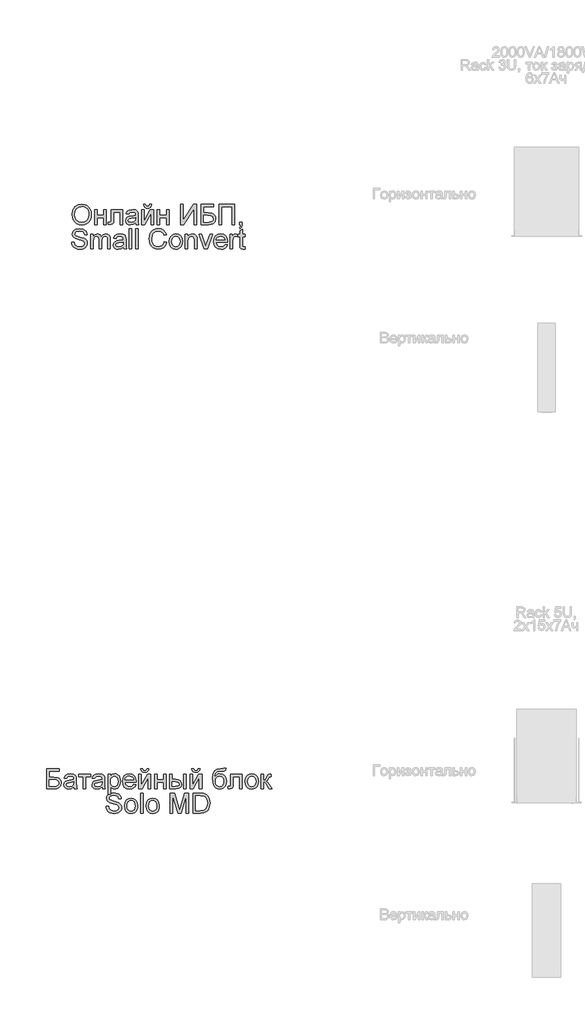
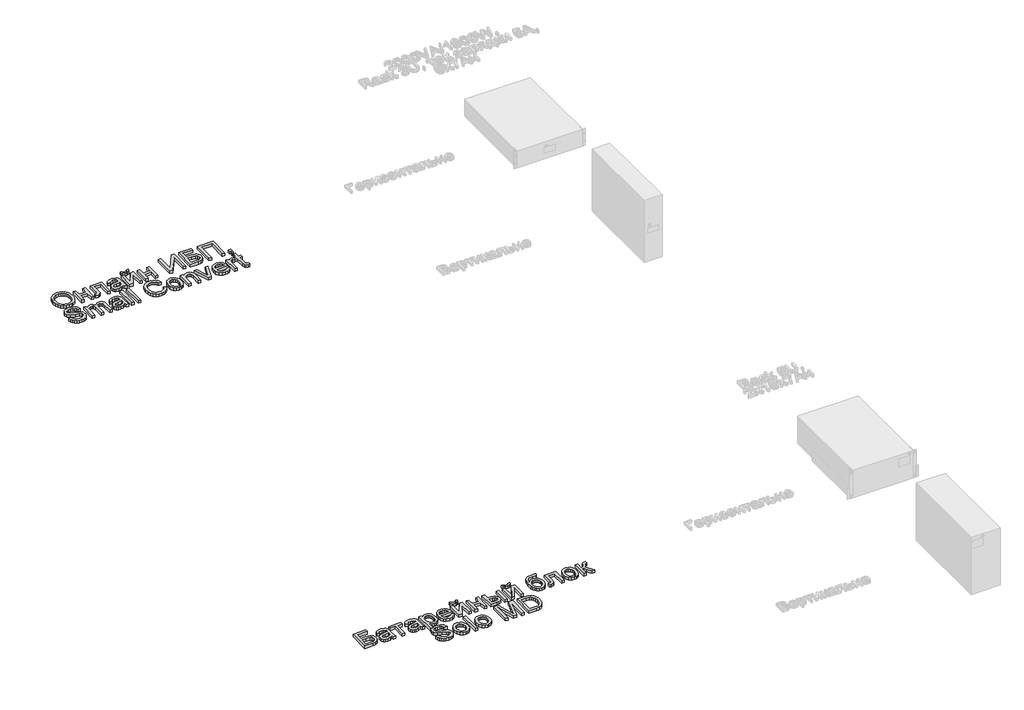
# One storey, part 5 of 74: 2 proxies.
"""IFC4 building model written with IfcOpenShell, lengths in millimetres."""

from ifc_helpers import new_model, si_unit, origin, origin_with_axes, place, context, project, spatial, polyline, outline, extrude, element, save

model = new_model("IFC4")

# Units and contexts
model_context = context("Model", 3, world=origin())
ifc_project = project(units=[si_unit("LENGTHUNIT", "METRE", prefix="MILLI")], contexts=[model_context])

# Site, building, storey
site = spatial("IfcSite", under=ifc_project)
building = spatial("IfcBuilding", under=site)
storey = spatial("IfcBuildingStorey", under=building, Name="Этаж 01", Elevation=0.0)

# Proxies
placement = place(None, origin())
element("IfcBuildingElementProxy", 1, Name="150 мм Arial", ObjectType="150 мм Arial", at=placement, inside=storey, context=model_context, shape_type="SweptSolid", body=[
    extrude(outline(polyline([(-2206.3315833, -35549.2350136), (-2201.3099941, -35515.9141019), (-2195.0330076, -35502.2955703), (-2186.2452264, -35490.7049882), (-2163.2434047, -35474.8400771), (-2134.4106533, -35469.5517734), (-2114.6461931, -35472.0349769), (-2096.923478, -35479.4845873), (-2082.2081982, -35491.3763728), (-2071.4660439, -35507.1861015), (-2064.8993503, -35526.1504184), (-2062.7104524, -35547.5059682), (-2065.0143134, -35569.1466266), (-2071.9258964, -35588.3776579), (-2083.0635238, -35604.2149778), (-2098.0455181, -35615.6745019), (-2115.6164819, -35622.6274716), (-2134.5210179, -35624.9451282), (-2154.5889807, -35622.3837498), (-2172.4128634, -35614.6996146), (-2187.091355, -35602.5870999), (-2197.7231447, -35586.740583), (-2204.1794737, -35568.5074316), (-2206.3315833, -35549.2350136)]), holes=[polyline([(-2187.4960252, -35549.4189546), (-2183.7298333, -35572.9909934), (-2172.4312575, -35590.9528318), (-2155.4489049, -35602.3203855), (-2134.6313825, -35606.10957), (-2113.5103574, -35602.2835973), (-2096.5004137, -35590.805679), (-2085.2846114, -35572.2920176), (-2081.5460106, -35547.3588154), (-2083.1462973, -35530.684564), (-2087.9471573, -35516.2727868), (-2095.8244305, -35504.4867674), (-2106.6539567, -35495.6897892), (-2119.7183661, -35490.212946), (-2134.3002887, -35488.3873316), (-2154.5613896, -35491.9052032), (-2171.787464, -35502.4588179), (-2183.5688849, -35521.2345952), (-2187.4960252, -35549.4189546)])]), origin_with_axes(), (0.0, 0.0, 1.0), 20.0),
    extrude(outline(polyline([(-2039.1660047, -35511.9317793), (-2020.3304466, -35511.9317793), (-2020.3304466, -35554.3117851), (-1970.8871064, -35554.3117851), (-1970.8871064, -35511.9317793), (-1952.0515483, -35511.9317793), (-1952.0515483, -35622.5906834), (-1970.8871064, -35622.5906834), (-1970.8871064, -35573.1473433), (-2020.3304466, -35573.1473433), (-2020.3304466, -35622.5906834), (-2039.1660047, -35622.5906834), (-2039.1660047, -35511.9317793)])), origin_with_axes(), (0.0, 0.0, 1.0), 20.0),
    extrude(outline(polyline([(-1914.380432, -35511.9317793), (-1829.6204203, -35511.9317793), (-1829.6204203, -35622.4803188), (-1848.4559784, -35622.4803188), (-1848.4559784, -35530.7673374), (-1895.5448738, -35530.7673374), (-1895.5448738, -35583.5584037), (-1896.8140667, -35607.9121918), (-1903.7854305, -35618.1944936), (-1920.2665439, -35622.5906834), (-1935.5704349, -35621.6341902), (-1935.5704349, -35603.7551253), (-1927.1459372, -35603.7551253), (-1918.629469, -35602.596297), (-1915.2265606, -35598.917477), (-1914.380432, -35582.491546), (-1914.380432, -35511.9317793)])), origin_with_axes(), (0.0, 0.0, 1.0), 20.0),
    extrude(outline(polyline([(-1730.73374, -35608.4640148), (-1748.999081, -35621.22952), (-1769.1774085, -35624.9451282), (-1784.9181593, -35622.7102451), (-1796.5294348, -35616.0055957), (-1803.6893381, -35605.8244615), (-1806.0759726, -35593.1601238), (-1802.470729, -35578.260903), (-1792.9977677, -35567.4451724), (-1779.8091981, -35561.2647548), (-1763.5120257, -35558.4320635), (-1730.8441046, -35551.9573404), (-1730.73374, -35547.7634856), (-1732.030524, -35539.357382), (-1735.9208761, -35533.8575462), (-1744.6212853, -35529.774056), (-1756.742997, -35528.4128927), (-1775.7992844, -35532.0365303), (-1784.8859697, -35544.894006), (-1803.7215278, -35542.5395613), (-1795.5729416, -35524.1454615), (-1779.1654046, -35513.3665191), (-1754.3149759, -35509.5773345), (-1731.4878981, -35512.9250607), (-1718.5936341, -35521.3311643), (-1712.8178868, -35534.1150636), (-1711.8981818, -35550.596177), (-1711.8981818, -35574.0302601), (-1710.9416886, -35606.7533635), (-1707.1892923, -35622.5906834), (-1726.0248504, -35622.5906834), (-1730.73374, -35608.4640148)]), holes=[polyline([(-1730.73374, -35570.7928985), (-1761.1207928, -35576.5686458), (-1777.3259947, -35579.6220664), (-1784.6652405, -35584.5884733), (-1787.2404144, -35591.8357486), (-1781.630214, -35602.0260799), (-1765.1674947, -35606.10957), (-1746.1112074, -35601.6030156), (-1733.8239487, -35590.6953144), (-1730.8441046, -35576.1271874), (-1730.73374, -35570.7928985)])]), origin_with_axes(), (0.0, 0.0, 1.0), 20.0),
    extrude(outline(polyline([(-1685.9992894, -35511.9317793), (-1667.1637312, -35511.9317793), (-1667.1637312, -35596.323909), (-1620.8841762, -35511.9317793), (-1596.5303881, -35511.9317793), (-1596.5303881, -35622.5906834), (-1615.3659463, -35622.5906834), (-1615.3659463, -35538.7135885), (-1661.3511957, -35622.5906834), (-1685.9992894, -35622.5906834), (-1685.9992894, -35511.9317793)])), origin_with_axes(), (0.0, 0.0, 1.0), 20.0),
    extrude(outline(polyline([(-1624.7837254, -35471.9062182), (-1610.6570567, -35471.9062182), (-1613.6966817, -35483.9681491), (-1619.7989243, -35492.8570978), (-1628.687873, -35498.333941), (-1640.0876164, -35500.1595554), (-1652.4576485, -35498.3477366), (-1662.0501715, -35492.9122801), (-1668.607668, -35484.037127), (-1671.8726207, -35471.9062182), (-1657.7459521, -35471.9062182), (-1652.4484514, -35482.5196138), (-1641.7798735, -35486.0328868), (-1630.0812261, -35482.6299784), (-1624.7837254, -35471.9062182)])), origin_with_axes(), (0.0, 0.0, 1.0), 20.0),
    extrude(outline(polyline([(-1568.2770509, -35511.9317793), (-1549.4414928, -35511.9317793), (-1549.4414928, -35554.3117851), (-1499.9981526, -35554.3117851), (-1499.9981526, -35511.9317793), (-1481.1625944, -35511.9317793), (-1481.1625944, -35622.5906834), (-1499.9981526, -35622.5906834), (-1499.9981526, -35573.1473433), (-1549.4414928, -35573.1473433), (-1549.4414928, -35622.5906834), (-1568.2770509, -35622.5906834), (-1568.2770509, -35511.9317793)])), origin_with_axes(), (0.0, 0.0, 1.0), 20.0),
    extrude(outline(polyline([(-1391.6936932, -35471.9062182), (-1372.8581351, -35471.9062182), (-1372.8581351, -35591.2471374), (-1293.9842353, -35471.9062182), (-1273.9714548, -35471.9062182), (-1273.9714548, -35622.5906834), (-1292.8070129, -35622.5906834), (-1292.8070129, -35503.580858), (-1371.4969717, -35622.5906834), (-1391.6936932, -35622.5906834), (-1391.6936932, -35471.9062182)])), origin_with_axes(), (0.0, 0.0, 1.0), 20.0),
    extrude(outline(polyline([(-1241.009228, -35471.9062182), (-1146.8314372, -35471.9062182), (-1146.8314372, -35490.7417764), (-1222.1736698, -35490.7417764), (-1222.1736698, -35535.476227), (-1186.8937865, -35535.476227), (-1155.8077579, -35539.3021997), (-1145.4058945, -35544.8296267), (-1137.3032936, -35553.7599621), (-1132.0885663, -35565.2562745), (-1130.3503238, -35578.4816322), (-1135.2983367, -35599.9475466), (-1150.0687988, -35616.2631131), (-1163.3401418, -35621.0087908), (-1183.5092721, -35622.5906834), (-1241.009228, -35622.5906834), (-1241.009228, -35471.9062182)]), holes=[polyline([(-1222.1736698, -35603.7551253), (-1181.817015, -35603.7551253), (-1167.5523906, -35602.2008238), (-1157.3528623, -35597.5379196), (-1151.2276271, -35589.7664124), (-1149.185882, -35578.8863024), (-1153.8579833, -35564.1342344), (-1166.8626119, -35556.2615597), (-1195.2447078, -35554.3117851), (-1222.1736698, -35554.3117851), (-1222.1736698, -35603.7551253)])]), origin_with_axes(), (0.0, 0.0, 1.0), 20.0),
    extrude(outline(polyline([(-1104.4514314, -35471.9062182), (-986.7291929, -35471.9062182), (-986.7291929, -35622.5906834), (-1005.5647511, -35622.5906834), (-1005.5647511, -35490.7417764), (-1085.6158732, -35490.7417764), (-1085.6158732, -35622.5906834), (-1104.4514314, -35622.5906834), (-1104.4514314, -35471.9062182)])), origin_with_axes(), (0.0, 0.0, 1.0), 20.0),
    extrude(outline(polyline([(-951.4125214, -35622.5906834), (-951.4125214, -35603.7551253), (-932.5769632, -35603.7551253), (-932.5769632, -35622.5906834), (-935.9614776, -35641.8493059), (-946.7036319, -35653.1984654), (-951.4125214, -35646.1351311), (-944.4963399, -35638.004939), (-942.0315305, -35622.5906834), (-951.4125214, -35622.5906834)])), origin_with_axes(), (0.0, 0.0, 1.0), 20.0),
    extrude(outline(polyline([(-2211.0404729, -35753.7551253), (-2192.2049147, -35753.7551253), (-2186.1348618, -35772.6090775), (-2171.3092174, -35784.5284542), (-2148.7212629, -35789.0717968), (-2129.0395762, -35785.6321002), (-2116.3292532, -35776.1775329), (-2112.1537926, -35763.5407863), (-2115.2807895, -35751.7869566), (-2128.083083, -35743.2337002), (-2155.5086857, -35736.0416072), (-2185.0312158, -35726.7525868), (-2201.0524767, -35712.7362828), (-2206.3315833, -35694.0110893), (-2204.699107, -35682.9792279), (-2199.8016779, -35672.6923276), (-2191.7680549, -35663.9735244), (-2180.7269965, -35657.645954), (-2152.804753, -35652.5140002), (-2123.0063114, -35657.8850773), (-2111.5835755, -35664.5161503), (-2103.1406837, -35673.6672149), (-2097.7971977, -35684.7680541), (-2095.6726792, -35697.2484508), (-2114.5082373, -35697.2484508), (-2117.9663281, -35686.0096559), (-2125.1768152, -35677.8978579), (-2136.4432013, -35672.9866332), (-2152.0689891, -35671.3495584), (-2168.0626588, -35672.9682391), (-2179.0347393, -35677.8242815), (-2185.3807037, -35684.9703892), (-2187.4960252, -35693.4592663), (-2185.9969061, -35700.6973445), (-2181.4995487, -35706.5190771), (-2150.7446139, -35717.0405022), (-2117.4145051, -35726.4950694), (-2106.6769494, -35733.3284775), (-2099.1859522, -35741.7621722), (-2094.7851639, -35751.7041832), (-2093.3182344, -35763.0625398), (-2095.0058931, -35774.6738152), (-2100.068869, -35785.595312), (-2108.3002287, -35794.9946969), (-2119.4930384, -35802.0396371), (-2132.9529209, -35806.4404255), (-2147.9854989, -35807.907355), (-2166.4393795, -35806.3254624), (-2181.6283074, -35801.5797846), (-2193.7270265, -35793.6519277), (-2202.9102808, -35782.5234973), (-2208.8055898, -35768.9670458), (-2211.0404729, -35753.7551253)])), origin_with_axes(), (0.0, 0.0, 1.0), 20.0),
    extrude(outline(polyline([(-2067.419342, -35805.5529102), (-2067.419342, -35694.894006), (-2048.5837838, -35694.894006), (-2048.5837838, -35713.1041648), (-2035.6343376, -35698.1865499), (-2017.2034496, -35692.5395613), (-2006.7280098, -35693.9788996), (-1998.3311033, -35698.2969145), (-1987.956831, -35714.42854), (-1973.2599453, -35698.011806), (-1954.7002986, -35692.5395613), (-1940.5414403, -35694.8158311), (-1930.0705991, -35701.6446407), (-1923.6004745, -35713.2099309), (-1921.4437663, -35729.6956428), (-1921.4437663, -35805.5529102), (-1940.2793244, -35805.5529102), (-1940.2793244, -35737.7890467), (-1942.0267639, -35722.0620914), (-1948.3543342, -35714.3181754), (-1959.1148826, -35711.3751194), (-1969.3190094, -35713.2605147), (-1977.637741, -35718.9167003), (-1983.1697665, -35728.7299526), (-1985.013775, -35743.0865474), (-1985.013775, -35805.5529102), (-2003.8493332, -35805.5529102), (-2003.8493332, -35735.6921193), (-2008.2087348, -35717.4451724), (-2013.9614895, -35712.8926327), (-2022.5009503, -35711.3751194), (-2036.443678, -35715.4218214), (-2045.7143042, -35727.2676216), (-2048.5837838, -35749.7452115), (-2048.5837838, -35805.5529102), (-2067.419342, -35805.5529102)])), origin_with_axes(), (0.0, 0.0, 1.0), 20.0),
    extrude(outline(polyline([(-1822.557086, -35791.4262416), (-1840.822427, -35804.1917468), (-1861.0007545, -35807.907355), (-1876.7415053, -35805.6724718), (-1888.3527808, -35798.9678225), (-1895.5126841, -35788.7866883), (-1897.8993186, -35776.1223506), (-1894.294075, -35761.2231298), (-1884.8211137, -35750.4073991), (-1871.6325441, -35744.2269816), (-1855.3353717, -35741.3942902), (-1822.6674506, -35734.9195671), (-1822.557086, -35730.7257124), (-1823.85387, -35722.3196088), (-1827.7442221, -35716.819773), (-1836.4446313, -35712.7362828), (-1848.566343, -35711.3751194), (-1867.6226304, -35714.9987571), (-1876.7093157, -35727.8562328), (-1895.5448738, -35725.501788), (-1887.3962876, -35707.1076883), (-1870.9887506, -35696.3287458), (-1846.1383219, -35692.5395613), (-1823.3112441, -35695.8872874), (-1810.4169801, -35704.293391), (-1804.6412328, -35717.0772904), (-1803.7215278, -35733.5584037), (-1803.7215278, -35756.9924868), (-1802.7650346, -35789.7155903), (-1799.0126383, -35805.5529102), (-1817.8481964, -35805.5529102), (-1822.557086, -35791.4262416)]), holes=[polyline([(-1822.557086, -35753.7551253), (-1852.9441388, -35759.5308726), (-1869.1493407, -35762.5842932), (-1876.4885865, -35767.5507001), (-1879.0637604, -35774.7979754), (-1873.45356, -35784.9883067), (-1856.9908407, -35789.0717968), (-1837.9345534, -35784.5652424), (-1825.6472947, -35773.6575412), (-1822.6674506, -35759.0894142), (-1822.557086, -35753.7551253)])]), origin_with_axes(), (0.0, 0.0, 1.0), 20.0),
    extrude(outline(polyline([(-1777.8226354, -35805.5529102), (-1777.8226354, -35654.868445), (-1758.9870772, -35654.868445), (-1758.9870772, -35805.5529102), (-1777.8226354, -35805.5529102)])), origin_with_axes(), (0.0, 0.0, 1.0), 20.0),
    extrude(outline(polyline([(-1730.73374, -35805.5529102), (-1730.73374, -35654.868445), (-1711.8981818, -35654.868445), (-1711.8981818, -35805.5529102), (-1730.73374, -35805.5529102)])), origin_with_axes(), (0.0, 0.0, 1.0), 20.0),
    extrude(outline(polyline([(-1516.479266, -35751.9892917), (-1497.6437078, -35756.845334), (-1506.33492, -35778.7940936), (-1519.9741449, -35794.82915), (-1537.8899981, -35804.6378037), (-1559.4110948, -35807.907355), (-1581.2586868, -35805.4333485), (-1598.6089214, -35798.0113293), (-1611.9078555, -35785.8988146), (-1621.6015461, -35769.3533219), (-1627.5198477, -35749.9015614), (-1629.4926149, -35729.0702434), (-1627.2623303, -35707.0984912), (-1620.5714765, -35688.1249773), (-1609.7695414, -35672.7521085), (-1595.206013, -35661.5822914), (-1577.9339533, -35654.781073), (-1559.0064246, -35652.5140002), (-1538.3544491, -35655.4478591), (-1521.280126, -35664.2494358), (-1508.3168842, -35678.3761045), (-1499.9981526, -35697.285239), (-1518.8337108, -35701.7733994), (-1525.3636162, -35688.0376054), (-1534.2847545, -35678.6152278), (-1545.7074905, -35673.1659757), (-1559.7421886, -35671.3495584), (-1575.9197994, -35673.3637123), (-1589.2095364, -35679.4061741), (-1599.2941016, -35688.8423472), (-1605.8561967, -35701.0376354), (-1610.6570567, -35729.0334552), (-1609.2361125, -35746.4342736), (-1604.9732799, -35761.4806472), (-1597.7076105, -35773.5977604), (-1587.278156, -35782.2107976), (-1574.7747666, -35787.356547), (-1561.287293, -35789.0717968), (-1545.5649362, -35786.7357461), (-1532.4637387, -35779.7275941), (-1522.5723115, -35768.1209172), (-1516.479266, -35751.9892917)])), origin_with_axes(), (0.0, 0.0, 1.0), 20.0),
    extrude(outline(polyline([(-1478.8081497, -35750.2234581), (-1474.7338566, -35723.5428164), (-1462.5109773, -35704.7900317), (-1447.4094214, -35695.6021789), (-1429.3280213, -35692.5395613), (-1409.5405685, -35696.268965), (-1393.7354383, -35707.4571762), (-1383.3749616, -35725.221278), (-1379.9214694, -35748.6783537), (-1381.4481797, -35767.7070499), (-1386.0283105, -35782.1924035), (-1393.5285047, -35793.0403238), (-1403.815405, -35801.1567204), (-1416.0336857, -35806.2196963), (-1429.3280213, -35807.907355), (-1449.3545974, -35804.1917468), (-1465.1413336, -35793.0449224), (-1475.3914456, -35774.90834), (-1478.8081497, -35750.2234581)]), holes=[polyline([(-1459.9725915, -35750.1866699), (-1457.7928907, -35767.2334019), (-1451.2537882, -35779.3781062), (-1441.4129449, -35786.6483742), (-1429.3280213, -35789.0717968), (-1417.2982801, -35786.6345786), (-1407.4758308, -35779.3229239), (-1400.9367283, -35767.0172712), (-1398.7570275, -35749.5980587), (-1400.9505239, -35733.0479675), (-1407.5310131, -35721.06881), (-1417.367258, -35713.7985421), (-1429.3280213, -35711.3751194), (-1441.4129449, -35713.789345), (-1451.2537882, -35721.0320218), (-1457.7928907, -35733.149135), (-1459.9725915, -35750.1866699)])]), origin_with_axes(), (0.0, 0.0, 1.0), 20.0),
    extrude(outline(polyline([(-1358.7314665, -35805.5529102), (-1358.7314665, -35694.894006), (-1339.8959083, -35694.894006), (-1339.8959083, -35710.3450498), (-1325.4933282, -35696.9909334), (-1305.8300355, -35692.5395613), (-1288.0429411, -35696.1264107), (-1275.9028352, -35705.5441898), (-1270.2558466, -35719.3949469), (-1269.2625652, -35737.6051057), (-1269.2625652, -35805.5529102), (-1288.0981234, -35805.5529102), (-1288.0981234, -35740.1434915), (-1290.2686271, -35723.4784371), (-1297.9389667, -35714.6676633), (-1310.8700189, -35711.3751194), (-1321.9018802, -35713.2237265), (-1331.3058637, -35718.7695475), (-1337.7483972, -35729.4841106), (-1339.8959083, -35746.8389438), (-1339.8959083, -35805.5529102), (-1358.7314665, -35805.5529102)])), origin_with_axes(), (0.0, 0.0, 1.0), 20.0),
    extrude(outline(polyline([(-1216.2139815, -35805.5529102), (-1255.1358966, -35694.894006), (-1235.1966925, -35694.894006), (-1211.6154566, -35761.1863416), (-1204.5153341, -35783.4799905), (-1197.5623644, -35762.4371404), (-1173.8339757, -35694.894006), (-1153.8947715, -35694.894006), (-1192.33844, -35805.5529102), (-1216.2139815, -35805.5529102)])), origin_with_axes(), (0.0, 0.0, 1.0), 20.0),
    extrude(outline(polyline([(-1059.93771, -35772.5906834), (-1041.4700338, -35774.9451282), (-1048.1240994, -35788.8602647), (-1058.7420935, -35799.2621281), (-1073.0848928, -35805.7460482), (-1090.913374, -35807.907355), (-1113.0138848, -35804.1779512), (-1130.01923, -35792.9897401), (-1140.8625519, -35775.0692884), (-1144.4769925, -35751.1431631), (-1140.8257637, -35726.412296), (-1129.8720773, -35707.9170287), (-1113.0966583, -35696.3839281), (-1091.9802317, -35692.5395613), (-1071.5213943, -35696.3747311), (-1055.1736381, -35707.8802405), (-1044.4544765, -35726.3387196), (-1040.8814226, -35751.0327985), (-1040.9917872, -35756.10957), (-1125.6414343, -35756.10957), (-1122.3810801, -35770.2086475), (-1114.8073095, -35780.5737227), (-1103.8766158, -35786.9472783), (-1090.545492, -35789.0717968), (-1072.0778158, -35785.1354595), (-1059.93771, -35772.5906834)]), holes=[polyline([(-1125.6414343, -35737.2740119), (-1059.7169808, -35737.2740119), (-1062.2645636, -35727.3228039), (-1067.2585617, -35720.2042873), (-1078.2398392, -35713.5824114), (-1092.0538081, -35711.3751194), (-1104.7503355, -35713.1363545), (-1115.2487679, -35718.4200596), (-1122.546627, -35726.6560178), (-1125.6414343, -35737.2740119)])]), origin_with_axes(), (0.0, 0.0, 1.0), 20.0),
    extrude(outline(polyline([(-911.3869603, -35789.844349), (-909.0325155, -35806.1047332), (-923.122396, -35807.907355), (-938.9045336, -35804.780358), (-946.7772083, -35796.5765895), (-949.0580766, -35775.2026456), (-949.0580766, -35713.7295642), (-963.1847452, -35713.7295642), (-963.1847452, -35698.3520968), (-963.1847452, -35694.894006), (-949.0580766, -35694.894006), (-949.0580766, -35668.0018322), (-930.2225185, -35656.9285841), (-930.2225185, -35694.894006), (-911.3869603, -35694.894006), (-911.3869603, -35713.7295642), (-930.2225185, -35713.7295642), (-930.2225185, -35774.6508226), (-929.2292371, -35784.3629073), (-926.0102696, -35787.8026039), (-919.5907288, -35789.0717968), (-911.3869603, -35789.844349)])), origin_with_axes(), (0.0, 0.0, 1.0), 20.0),
    extrude(outline(polyline([(-1022.0458645, -35805.5529102), (-1022.0458645, -35694.894006), (-1005.5647511, -35694.894006), (-1005.5647511, -35711.2647548), (-993.8661036, -35696.181593), (-982.0938798, -35692.5395613), (-963.1847452, -35698.3520968), (-969.4755274, -35715.2378804), (-982.7192792, -35711.3751194), (-993.3694629, -35715.0907276), (-1000.1568858, -35725.3914234), (-1003.2103063, -35747.3907668), (-1003.2103063, -35805.5529102), (-1022.0458645, -35805.5529102)])), origin_with_axes(), (0.0, 0.0, 1.0), 20.0),
])
element("IfcBuildingElementProxy", 2, Name="150 мм Arial", ObjectType="150 мм Arial", at=placement, inside=storey, context=model_context, shape_type="SweptSolid", body=[
    extrude(outline(polyline([(-2399.3960544, -39701.6647712), (-2305.2182636, -39701.6647712), (-2305.2182636, -39720.5003294), (-2380.5604963, -39720.5003294), (-2380.5604963, -39765.23478), (-2345.2806129, -39765.23478), (-2314.1945843, -39769.0607527), (-2303.7927209, -39774.5881797), (-2295.69012, -39783.5185151), (-2290.4753927, -39795.0148275), (-2288.7371503, -39808.2401852), (-2293.6851631, -39829.7060996), (-2308.4556252, -39846.0216661), (-2321.7269682, -39850.7673438), (-2341.8960986, -39852.3492364), (-2399.3960544, -39852.3492364), (-2399.3960544, -39701.6647712)]), holes=[polyline([(-2380.5604963, -39833.5136783), (-2340.2038414, -39833.5136783), (-2325.939217, -39831.9593768), (-2315.7396887, -39827.2964726), (-2309.6144535, -39819.5249654), (-2307.5727084, -39808.6448554), (-2312.2448098, -39793.8927874), (-2325.2494383, -39786.0201127), (-2353.6315342, -39784.0703381), (-2380.5604963, -39784.0703381), (-2380.5604963, -39833.5136783)])]), origin_with_axes(), (0.0, 0.0, 1.0), 20.0),
    extrude(outline(polyline([(-2194.5593595, -39838.2225678), (-2212.8247006, -39850.988073), (-2233.003028, -39854.7036812), (-2248.7437789, -39852.4687981), (-2260.3550543, -39845.7641487), (-2267.5149577, -39835.5830145), (-2269.9015921, -39822.9186768), (-2266.2963486, -39808.019456), (-2256.8233872, -39797.2037254), (-2243.6348176, -39791.0233078), (-2227.3376453, -39788.1906165), (-2194.6697241, -39781.7158934), (-2194.5593595, -39777.5220386), (-2195.8561435, -39769.115935), (-2199.7464956, -39763.6160992), (-2208.4469048, -39759.532609), (-2220.5686166, -39758.1714457), (-2239.6249039, -39761.7950833), (-2248.7115892, -39774.652559), (-2267.5471473, -39772.2981143), (-2259.3985611, -39753.9040145), (-2242.9910242, -39743.1250721), (-2218.1405954, -39739.3358875), (-2195.3135176, -39742.6836137), (-2182.4192537, -39751.0897173), (-2176.6435063, -39763.8736166), (-2175.7238013, -39780.35473), (-2175.7238013, -39803.7888131), (-2174.7673082, -39836.5119165), (-2171.0149118, -39852.3492364), (-2189.85047, -39852.3492364), (-2194.5593595, -39838.2225678)]), holes=[polyline([(-2194.5593595, -39800.5514515), (-2224.9464123, -39806.3271988), (-2241.1516142, -39809.3806194), (-2248.49086, -39814.3470263), (-2251.066034, -39821.5943016), (-2245.4558335, -39831.7846329), (-2228.9931142, -39835.868123), (-2209.9368269, -39831.3615686), (-2197.6495683, -39820.4538674), (-2194.6697241, -39805.8857404), (-2194.5593595, -39800.5514515)])]), origin_with_axes(), (0.0, 0.0, 1.0), 20.0),
    extrude(outline(polyline([(-2159.242688, -39741.6903323), (-2069.7737867, -39741.6903323), (-2069.7737867, -39760.5258904), (-2105.0904583, -39760.5258904), (-2105.0904583, -39852.3492364), (-2123.9260164, -39852.3492364), (-2123.9260164, -39760.5258904), (-2159.242688, -39760.5258904), (-2159.242688, -39741.6903323)])), origin_with_axes(), (0.0, 0.0, 1.0), 20.0),
    extrude(outline(polyline([(-1982.6593303, -39838.2225678), (-2000.9246713, -39850.988073), (-2021.1029988, -39854.7036812), (-2036.8437496, -39852.4687981), (-2048.4550251, -39845.7641487), (-2055.6149284, -39835.5830145), (-2058.0015629, -39822.9186768), (-2054.3963193, -39808.019456), (-2044.923358, -39797.2037254), (-2031.7347884, -39791.0233078), (-2015.437616, -39788.1906165), (-1982.7696949, -39781.7158934), (-1982.6593303, -39777.5220386), (-1983.9561143, -39769.115935), (-1987.8464664, -39763.6160992), (-1996.5468756, -39759.532609), (-2008.6685873, -39758.1714457), (-2027.7248747, -39761.7950833), (-2036.81156, -39774.652559), (-2055.6471181, -39772.2981143), (-2047.4985319, -39753.9040145), (-2031.0909949, -39743.1250721), (-2006.2405662, -39739.3358875), (-1983.4134884, -39742.6836137), (-1970.5192244, -39751.0897173), (-1964.7434771, -39763.8736166), (-1963.8237721, -39780.35473), (-1963.8237721, -39803.7888131), (-1962.8672789, -39836.5119165), (-1959.1148826, -39852.3492364), (-1977.9504407, -39852.3492364), (-1982.6593303, -39838.2225678)]), holes=[polyline([(-1982.6593303, -39800.5514515), (-2013.0463831, -39806.3271988), (-2029.251585, -39809.3806194), (-2036.5908308, -39814.3470263), (-2039.1660047, -39821.5943016), (-2033.5558043, -39831.7846329), (-2017.093085, -39835.868123), (-1998.0367977, -39831.3615686), (-1985.749539, -39820.4538674), (-1982.7696949, -39805.8857404), (-1982.6593303, -39800.5514515)])]), origin_with_axes(), (0.0, 0.0, 1.0), 20.0),
    extrude(outline(polyline([(-1937.9248797, -39894.7292423), (-1937.9248797, -39741.6903323), (-1919.0893215, -39741.6903323), (-1919.0893215, -39760.1580084), (-1906.0662989, -39744.5414177), (-1888.4815395, -39739.3358875), (-1875.7436254, -39741.1569034), (-1864.605998, -39746.619951), (-1855.5377068, -39755.3939366), (-1849.0078014, -39767.1477663), (-1843.7470889, -39796.1736558), (-1845.2324124, -39812.2822886), (-1849.6883831, -39826.6894673), (-1856.9724466, -39838.6640262), (-1866.9420487, -39847.4748), (-1878.5533242, -39852.8964609), (-1890.7624079, -39854.7036812), (-1907.1515508, -39849.866033), (-1919.0893215, -39837.6339566), (-1919.0893215, -39894.7292423), (-1937.9248797, -39894.7292423)]), holes=[polyline([(-1919.0893215, -39797.9027011), (-1917.052175, -39814.7884847), (-1910.9407353, -39826.5974968), (-1901.9230279, -39833.5504665), (-1891.1670781, -39835.868123), (-1880.2363843, -39833.467693), (-1870.9887506, -39826.266403), (-1864.6841729, -39814.0251296), (-1862.582647, -39796.5047496), (-1864.6335892, -39779.7109365), (-1870.7864155, -39767.7363775), (-1879.7903274, -39760.5626786), (-1890.3945259, -39758.1714457), (-1901.0401111, -39760.71443), (-1910.3889123, -39768.3433828), (-1916.9142192, -39780.819181), (-1919.0893215, -39797.9027011)])]), origin_with_axes(), (0.0, 0.0, 1.0), 20.0),
    extrude(outline(polyline([(-1745.0811378, -39819.3870097), (-1726.6134616, -39821.7414544), (-1733.2675272, -39835.6565909), (-1743.8855213, -39846.0584543), (-1758.2283206, -39852.5423745), (-1776.0568018, -39854.7036812), (-1798.1573126, -39850.9742775), (-1815.1626579, -39839.7860663), (-1826.0059797, -39821.8656146), (-1829.6204203, -39797.9394893), (-1825.9691915, -39773.2086222), (-1815.0155051, -39754.7133549), (-1798.2400861, -39743.1802544), (-1777.1236596, -39739.3358875), (-1756.6648221, -39743.1710573), (-1740.3170659, -39754.6765667), (-1729.5979043, -39773.1350458), (-1726.0248504, -39797.8291247), (-1726.135215, -39802.9058963), (-1810.7848621, -39802.9058963), (-1807.5245079, -39817.0049737), (-1799.9507374, -39827.370049), (-1789.0200436, -39833.7436045), (-1775.6889198, -39835.868123), (-1757.2212436, -39831.9317857), (-1745.0811378, -39819.3870097)]), holes=[polyline([(-1810.7848621, -39784.0703381), (-1744.8604086, -39784.0703381), (-1747.4079914, -39774.1191302), (-1752.4019895, -39767.0006135), (-1763.383267, -39760.3787376), (-1777.197236, -39758.1714457), (-1789.8937633, -39759.9326807), (-1800.3921958, -39765.2163859), (-1807.6900548, -39773.452344), (-1810.7848621, -39784.0703381)])]), origin_with_axes(), (0.0, 0.0, 1.0), 20.0),
    extrude(outline(polyline([(-1645.9737283, -39701.6647712), (-1631.8470597, -39701.6647712), (-1634.8866847, -39713.7267021), (-1640.9889273, -39722.6156508), (-1649.877876, -39728.092494), (-1661.2776193, -39729.9181084), (-1673.6476514, -39728.1062896), (-1683.2401744, -39722.6708331), (-1689.797671, -39713.79568), (-1693.0626237, -39701.6647712), (-1678.9359551, -39701.6647712), (-1673.6384543, -39712.2781668), (-1662.9698765, -39715.7914398), (-1651.271229, -39712.3885314), (-1645.9737283, -39701.6647712)])), origin_with_axes(), (0.0, 0.0, 1.0), 20.0),
    extrude(outline(polyline([(-1707.1892923, -39741.6903323), (-1688.3537341, -39741.6903323), (-1688.3537341, -39826.082462), (-1642.0741791, -39741.6903323), (-1617.7203911, -39741.6903323), (-1617.7203911, -39852.3492364), (-1636.5559492, -39852.3492364), (-1636.5559492, -39768.4721415), (-1682.5411986, -39852.3492364), (-1707.1892923, -39852.3492364), (-1707.1892923, -39741.6903323)])), origin_with_axes(), (0.0, 0.0, 1.0), 20.0),
    extrude(outline(polyline([(-1589.4670538, -39741.6903323), (-1570.6314957, -39741.6903323), (-1570.6314957, -39784.0703381), (-1521.1881555, -39784.0703381), (-1521.1881555, -39741.6903323), (-1502.3525974, -39741.6903323), (-1502.3525974, -39852.3492364), (-1521.1881555, -39852.3492364), (-1521.1881555, -39802.9058963), (-1570.6314957, -39802.9058963), (-1570.6314957, -39852.3492364), (-1589.4670538, -39852.3492364), (-1589.4670538, -39741.6903323)])), origin_with_axes(), (0.0, 0.0, 1.0), 20.0),
    extrude(outline(polyline([(-1474.0992601, -39741.6903323), (-1455.263702, -39741.6903323), (-1455.263702, -39781.7158934), (-1431.9767717, -39781.7158934), (-1411.849028, -39784.0749366), (-1396.9360117, -39791.1520665), (-1387.7067721, -39802.3770659), (-1384.6303589, -39817.1797177), (-1387.2101314, -39830.6579943), (-1394.9494489, -39842.0301465), (-1408.3541491, -39849.7694639), (-1427.9300697, -39852.3492364), (-1474.0992601, -39852.3492364), (-1474.0992601, -39741.6903323)]), holes=[polyline([(-1455.263702, -39833.5136783), (-1435.913109, -39833.5136783), (-1410.9339216, -39829.5589468), (-1405.3329182, -39824.4959709), (-1403.4659171, -39817.2165059), (-1409.0025411, -39805.628223), (-1417.8822928, -39801.8206444), (-1433.4482997, -39800.5514515), (-1455.263702, -39800.5514515), (-1455.263702, -39833.5136783)])]), origin_with_axes(), (0.0, 0.0, 1.0), 20.0),
    extrude(outline(polyline([(-1370.5036903, -39741.6903323), (-1351.6681321, -39741.6903323), (-1351.6681321, -39852.3492364), (-1370.5036903, -39852.3492364), (-1370.5036903, -39741.6903323)])), origin_with_axes(), (0.0, 0.0, 1.0), 20.0),
    extrude(outline(polyline([(-1262.1992309, -39701.6647712), (-1248.0725623, -39701.6647712), (-1251.1121873, -39713.7267021), (-1257.2144299, -39722.6156508), (-1266.1033786, -39728.092494), (-1277.5031219, -39729.9181084), (-1289.873154, -39728.1062896), (-1299.465677, -39722.6708331), (-1306.0231736, -39713.79568), (-1309.2881263, -39701.6647712), (-1295.1614577, -39701.6647712), (-1289.863957, -39712.2781668), (-1279.1953791, -39715.7914398), (-1267.4967316, -39712.3885314), (-1262.1992309, -39701.6647712)])), origin_with_axes(), (0.0, 0.0, 1.0), 20.0),
    extrude(outline(polyline([(-1323.4147949, -39741.6903323), (-1304.5792368, -39741.6903323), (-1304.5792368, -39826.082462), (-1258.2996818, -39741.6903323), (-1233.9458937, -39741.6903323), (-1233.9458937, -39852.3492364), (-1252.7814518, -39852.3492364), (-1252.7814518, -39768.4721415), (-1298.7667012, -39852.3492364), (-1323.4147949, -39852.3492364), (-1323.4147949, -39741.6903323)])), origin_with_axes(), (0.0, 0.0, 1.0), 20.0),
    extrude(outline(polyline([(-1069.1347598, -39699.3103264), (-1052.6536465, -39699.3103264), (-1057.5096888, -39714.0072121), (-1067.1114089, -39719.323107), (-1090.17761, -39720.5003294), (-1121.2452445, -39724.8413369), (-1128.3729581, -39730.4883255), (-1133.1646211, -39738.7472763), (-1137.192929, -39763.3585818), (-1120.8773625, -39745.332364), (-1110.9583442, -39740.8350066), (-1099.8529064, -39739.3358875), (-1080.2539932, -39743.1480647), (-1064.3522939, -39754.5845962), (-1053.8124747, -39772.523442), (-1050.2992017, -39795.842562), (-1052.0420426, -39813.8227945), (-1057.2705655, -39828.2529657), (-1073.8068612, -39847.8058938), (-1085.1008384, -39852.9792343), (-1099.8529064, -39854.7036812), (-1116.8536531, -39852.4825937), (-1129.5961658, -39845.819331), (-1138.9725581, -39835.6933791), (-1145.874944, -39823.0842237), (-1150.1239811, -39804.0969142), (-1151.5403268, -39774.8365), (-1147.9672729, -39738.6966925), (-1137.2481113, -39716.6559625), (-1119.1161274, -39705.412569), (-1093.3046069, -39701.6647712), (-1072.3353332, -39701.2417069), (-1069.1347598, -39699.3103264)]), holes=[polyline([(-1069.1347598, -39795.2539508), (-1071.1765049, -39780.4329049), (-1077.3017401, -39768.564112), (-1087.1425835, -39760.7696123), (-1100.331153, -39758.1714457), (-1114.0807426, -39760.9167651), (-1124.2802709, -39769.1527232), (-1130.5986442, -39781.9780093), (-1132.7047686, -39798.4913123), (-1130.377915, -39814.4987776), (-1123.3973541, -39826.2480089), (-1113.0046878, -39833.4630945), (-1100.4415176, -39835.868123), (-1087.8139682, -39833.0860155), (-1077.8167749, -39824.7396927), (-1071.3052636, -39811.804042), (-1069.1347598, -39795.2539508)])]), origin_with_axes(), (0.0, 0.0, 1.0), 20.0),
    extrude(outline(polyline([(-1017.3369749, -39741.6903323), (-932.5769632, -39741.6903323), (-932.5769632, -39852.2388718), (-951.4125214, -39852.2388718), (-951.4125214, -39760.5258904), (-998.5014168, -39760.5258904), (-998.5014168, -39813.3169567), (-999.7706097, -39837.6707448), (-1006.7419735, -39847.9530466), (-1023.2230869, -39852.3492364), (-1038.5269778, -39851.3927432), (-1038.5269778, -39833.5136783), (-1030.1024802, -39833.5136783), (-1021.586012, -39832.35485), (-1018.1831035, -39828.67603), (-1017.3369749, -39812.250099), (-1017.3369749, -39741.6903323)])), origin_with_axes(), (0.0, 0.0, 1.0), 20.0),
    extrude(outline(polyline([(-909.0325155, -39797.0197844), (-904.9582225, -39770.3391427), (-892.7353432, -39751.5863579), (-877.6337873, -39742.3985051), (-859.5523872, -39739.3358875), (-839.7649344, -39743.0652912), (-823.9598042, -39754.2535024), (-813.5993275, -39772.0176043), (-810.1458352, -39795.47468), (-811.6725455, -39814.5033762), (-816.2526764, -39828.9887297), (-823.7528705, -39839.8366501), (-834.0397708, -39847.9530466), (-846.2580516, -39853.0160225), (-859.5523872, -39854.7036812), (-879.5789633, -39850.988073), (-895.3656994, -39839.8412486), (-905.6158115, -39821.7046662), (-909.0325155, -39797.0197844)]), holes=[polyline([(-890.1969574, -39796.9829962), (-888.0172566, -39814.0297281), (-881.4781541, -39826.1744325), (-871.6373107, -39833.4447004), (-859.5523872, -39835.868123), (-847.522646, -39833.4309048), (-837.7001967, -39826.1192502), (-831.1610942, -39813.8135974), (-828.9813934, -39796.394385), (-831.1748898, -39779.8442937), (-837.755379, -39767.8651362), (-847.5916238, -39760.5948683), (-859.5523872, -39758.1714457), (-871.6373107, -39760.5856713), (-881.4781541, -39767.828348), (-888.0172566, -39779.9454613), (-890.1969574, -39796.9829962)])]), origin_with_axes(), (0.0, 0.0, 1.0), 20.0),
    extrude(outline(polyline([(-788.9558323, -39741.6903323), (-770.1202742, -39741.6903323), (-770.1202742, -39788.7792277), (-757.5019217, -39785.3947133), (-747.1644377, -39765.6762384), (-738.5743931, -39748.6616961), (-730.996024, -39743.1250721), (-717.2188433, -39741.6903323), (-713.6135997, -39741.6903323), (-713.6135997, -39760.636255), (-718.6903712, -39760.5258904), (-727.8874211, -39762.5124532), (-734.3621442, -39774.9100764), (-741.9589074, -39788.3193752), (-752.6090912, -39794.8860688), (-740.7265028, -39802.2161175), (-729.0646435, -39817.6579643), (-708.9047102, -39852.3492364), (-730.3154423, -39852.3492364), (-750.0707054, -39818.3937283), (-760.0035193, -39804.0279364), (-770.1202742, -39800.5514515), (-770.1202742, -39852.3492364), (-788.9558323, -39852.3492364), (-788.9558323, -39741.6903323)])), origin_with_axes(), (0.0, 0.0, 1.0), 20.0),
    extrude(outline(polyline([(-1953.2287707, -39983.5136783), (-1934.3932125, -39983.5136783), (-1928.3231596, -40002.3676305), (-1913.4975152, -40014.2870072), (-1890.9095607, -40018.8303498), (-1871.2278739, -40015.3906532), (-1858.517551, -40005.9360859), (-1854.3420904, -39993.2993393), (-1857.4690873, -39981.5455096), (-1870.2713807, -39972.9922532), (-1897.6969835, -39965.8001602), (-1927.2195136, -39956.5111398), (-1943.2407745, -39942.4948358), (-1948.5198811, -39923.7696423), (-1946.8874048, -39912.7377809), (-1941.9899757, -39902.4508806), (-1933.9563526, -39893.7320774), (-1922.9152943, -39887.404507), (-1894.9930508, -39882.2725532), (-1865.1946092, -39887.6436303), (-1853.7718733, -39894.2747033), (-1845.3289815, -39903.4257679), (-1839.9854955, -39914.5266071), (-1837.860977, -39927.0070038), (-1856.6965351, -39927.0070038), (-1860.1546259, -39915.7682089), (-1867.365113, -39907.6564109), (-1878.6314991, -39902.7451862), (-1894.2572868, -39901.1081114), (-1910.2509566, -39902.7267921), (-1921.2230371, -39907.5828345), (-1927.5690015, -39914.7289422), (-1929.684323, -39923.2178193), (-1928.1852038, -39930.4558975), (-1923.6878464, -39936.2776301), (-1892.9329116, -39946.7990552), (-1859.6028029, -39956.2536224), (-1848.8652472, -39963.0870305), (-1841.37425, -39971.5207252), (-1836.9734617, -39981.4627362), (-1835.5065322, -39992.8210928), (-1837.1941909, -40004.4323682), (-1842.2571668, -40015.353865), (-1850.4885265, -40024.7532499), (-1861.6813362, -40031.7981901), (-1875.1412187, -40036.1989785), (-1890.1737967, -40037.665908), (-1908.6276773, -40036.0840154), (-1923.8166051, -40031.3383376), (-1935.9153243, -40023.4104807), (-1945.0985786, -40012.2820503), (-1950.9938875, -39998.7255988), (-1953.2287707, -39983.5136783)])), origin_with_axes(), (0.0, 0.0, 1.0), 20.0),
    extrude(outline(polyline([(-1814.3165293, -39979.9820111), (-1810.2422362, -39953.3013694), (-1798.0193569, -39934.5485847), (-1782.917801, -39925.3607319), (-1764.8364009, -39922.2981143), (-1745.0489481, -39926.027518), (-1729.2438179, -39937.2157292), (-1718.8833412, -39954.979831), (-1715.429849, -39978.4369067), (-1716.9565593, -39997.4656029), (-1721.5366901, -40011.9509565), (-1729.0368843, -40022.7988768), (-1739.3237846, -40030.9152734), (-1751.5420653, -40035.9782493), (-1764.8364009, -40037.665908), (-1784.862977, -40033.9502998), (-1800.6497132, -40022.8034754), (-1810.8998252, -40004.666893), (-1814.3165293, -39979.9820111)]), holes=[polyline([(-1795.4809711, -39979.9452229), (-1793.3012703, -39996.9919549), (-1786.7621678, -40009.1366592), (-1776.9213245, -40016.4069272), (-1764.8364009, -40018.8303498), (-1752.8066597, -40016.3931316), (-1742.9842104, -40009.0814769), (-1736.4451079, -39996.7758242), (-1734.2654071, -39979.3566117), (-1736.4589035, -39962.8065205), (-1743.0393927, -39950.827363), (-1752.8756376, -39943.5570951), (-1764.8364009, -39941.1336724), (-1776.9213245, -39943.547898), (-1786.7621678, -39950.7905748), (-1793.3012703, -39962.907688), (-1795.4809711, -39979.9452229)])]), origin_with_axes(), (0.0, 0.0, 1.0), 20.0),
    extrude(outline(polyline([(-1694.2398461, -40035.3114632), (-1694.2398461, -39884.626998), (-1675.4042879, -39884.626998), (-1675.4042879, -40035.3114632), (-1694.2398461, -40035.3114632)])), origin_with_axes(), (0.0, 0.0, 1.0), 20.0),
    extrude(outline(polyline([(-1651.8598402, -39979.9820111), (-1647.7855471, -39953.3013694), (-1635.5626678, -39934.5485847), (-1620.4611119, -39925.3607319), (-1602.3797119, -39922.2981143), (-1582.592259, -39926.027518), (-1566.7871288, -39937.2157292), (-1556.4266521, -39954.979831), (-1552.9731599, -39978.4369067), (-1554.4998702, -39997.4656029), (-1559.080001, -40011.9509565), (-1566.5801952, -40022.7988768), (-1576.8670955, -40030.9152734), (-1589.0853763, -40035.9782493), (-1602.3797119, -40037.665908), (-1622.406288, -40033.9502998), (-1638.1930241, -40022.8034754), (-1648.4431362, -40004.666893), (-1651.8598402, -39979.9820111)]), holes=[polyline([(-1633.0242821, -39979.9452229), (-1630.8445812, -39996.9919549), (-1624.3054788, -40009.1366592), (-1614.4646354, -40016.4069272), (-1602.3797119, -40018.8303498), (-1590.3499706, -40016.3931316), (-1580.5275213, -40009.0814769), (-1573.9884189, -39996.7758242), (-1571.8087181, -39979.3566117), (-1574.0022145, -39962.8065205), (-1580.5827036, -39950.827363), (-1590.4189485, -39943.5570951), (-1602.3797119, -39941.1336724), (-1614.4646354, -39943.547898), (-1624.3054788, -39950.7905748), (-1630.8445812, -39962.907688), (-1633.0242821, -39979.9452229)])]), origin_with_axes(), (0.0, 0.0, 1.0), 20.0),
    extrude(outline(polyline([(-1470.567593, -40035.3114632), (-1470.567593, -39884.626998), (-1438.1571892, -39884.626998), (-1407.328678, -39990.83453), (-1401.1114723, -40013.0178143), (-1394.3792318, -39988.99512), (-1364.0657554, -39884.626998), (-1331.6553516, -39884.626998), (-1331.6553516, -40035.3114632), (-1350.4909098, -40035.3114632), (-1350.4909098, -39903.4625561), (-1388.3459671, -40035.3114632), (-1413.8769775, -40035.3114632), (-1451.7320348, -39903.4625561), (-1451.7320348, -40035.3114632), (-1470.567593, -40035.3114632)])), origin_with_axes(), (0.0, 0.0, 1.0), 20.0),
    extrude(outline(polyline([(-1298.6931248, -40035.3114632), (-1298.6931248, -39884.626998), (-1246.7113989, -39884.626998), (-1219.8192251, -39886.7975017), (-1197.672729, -39897.5764442), (-1187.2524714, -39909.0543625), (-1179.8304522, -39923.3281839), (-1175.3882771, -39940.1219969), (-1173.9075521, -39959.1598902), (-1177.9174658, -39989.5653371), (-1188.2181617, -40011.5094981), (-1201.9769483, -40025.1763142), (-1219.984772, -40032.7362892), (-1244.2098014, -40035.3114632), (-1298.6931248, -40035.3114632)]), holes=[polyline([(-1279.8575667, -40016.475905), (-1246.5274579, -40016.475905), (-1222.2840344, -40013.7535783), (-1208.3045186, -40006.0648446), (-1196.8449945, -39987.3580451), (-1192.7431102, -39958.8655846), (-1194.7526656, -39938.3377693), (-1200.7813318, -39923.1810311), (-1209.6886746, -39912.7699706), (-1220.3342599, -39906.4791885), (-1247.0424927, -39903.4625561), (-1279.8575667, -39903.4625561), (-1279.8575667, -40016.475905)])]), origin_with_axes(), (0.0, 0.0, 1.0), 20.0),
])

save(model, "model.ifc")
